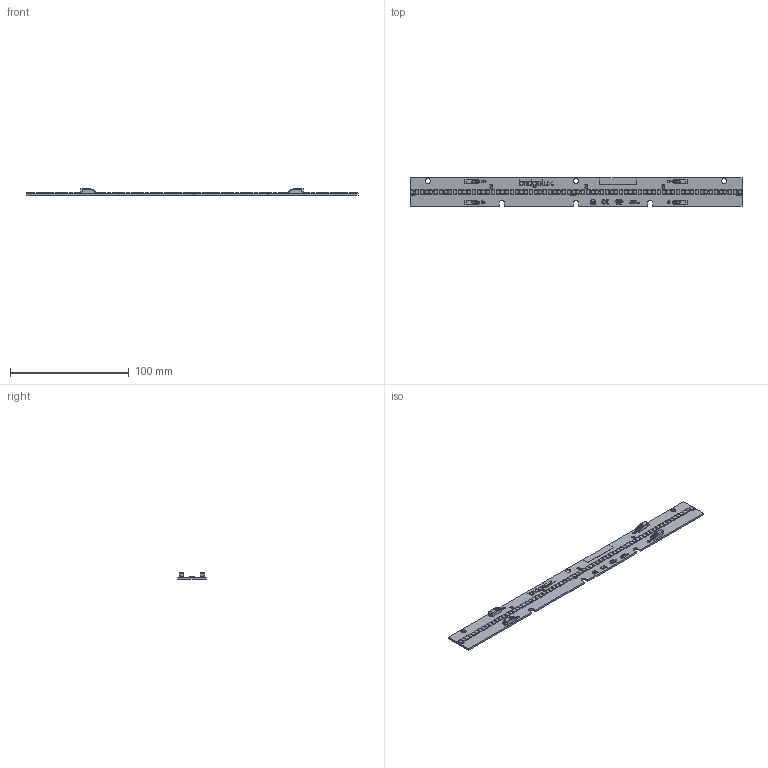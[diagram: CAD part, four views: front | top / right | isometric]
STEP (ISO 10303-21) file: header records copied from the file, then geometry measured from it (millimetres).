
FILE_DESCRIPTION (( 'STEP AP214' ), '1' );
FILE_NAME ('BXEB-TL-L0280Z ver. B (15-000718 revB).STEP', '2020-11-03T02:57:35', ( '' ), ( '' ), 'SwSTEP 2.0', 'SolidWorks 2020', '' );
FILE_SCHEMA (( 'AUTOMOTIVE_DESIGN' ));
Length unit declared in the file: millimetre
Products named in the file (1): BXEB-TL-L0280Z ver. B (15-000718 revB)
Bounding box: 280 x 24 x 5.55 mm (x, y, z)
Volume: 11682.6 mm3; surface area: 17241.7 mm2
Topology: 75 solids, 75 shells, 2801 faces, 7400 edges, 4973 vertices
Faces by surface type: plane 2141, bspline 409, cylinder 243, cone 8
Full cylindrical faces by diameter (mm): 0.597 x1, 1.019 x1, 2 x7, 4.3 x3
Entity records: 134449 total; most frequent: CARTESIAN_POINT 38030, ORIENTED_EDGE 14754, DIRECTION 10555, EDGE_CURVE 7377, VECTOR 5605, LINE 5605, VERTEX_POINT 4970, EDGE_LOOP 3051
